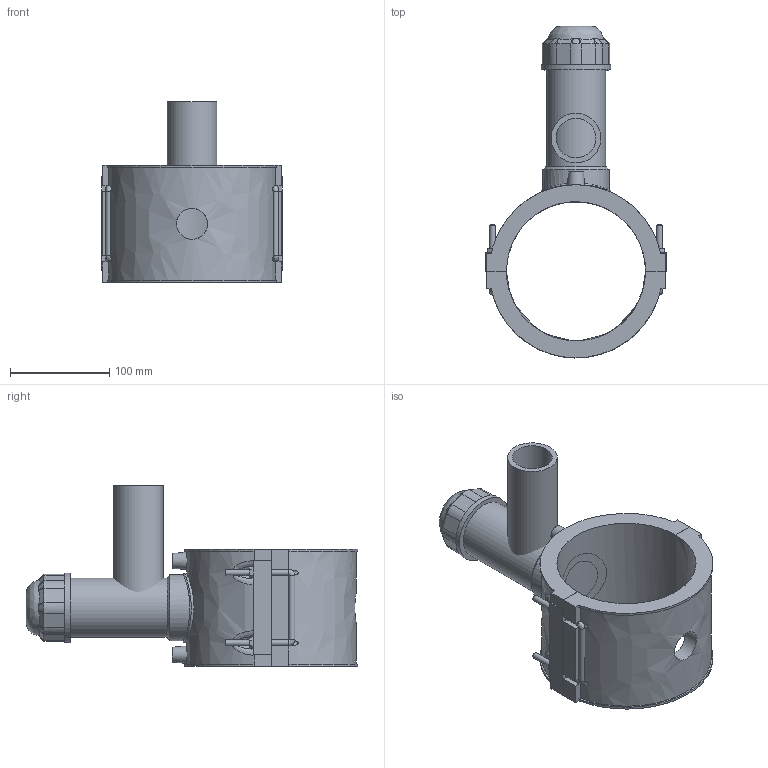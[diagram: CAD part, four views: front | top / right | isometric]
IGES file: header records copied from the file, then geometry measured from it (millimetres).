
Global section: file name: 4963P4140050; native system: Autodesk Inventor 2019; preprocessor: unknown; author: KIM; date: 20220317.112934; units: millimetre
Bounding box: 182 x 334.1 x 182 mm (x, y, z)
Volume: 1313073.2 mm3; surface area: 254278 mm2
Topology: 3 solids, 5 shells, 217 faces, 549 edges, 349 vertices
Faces by surface type: bspline 217
